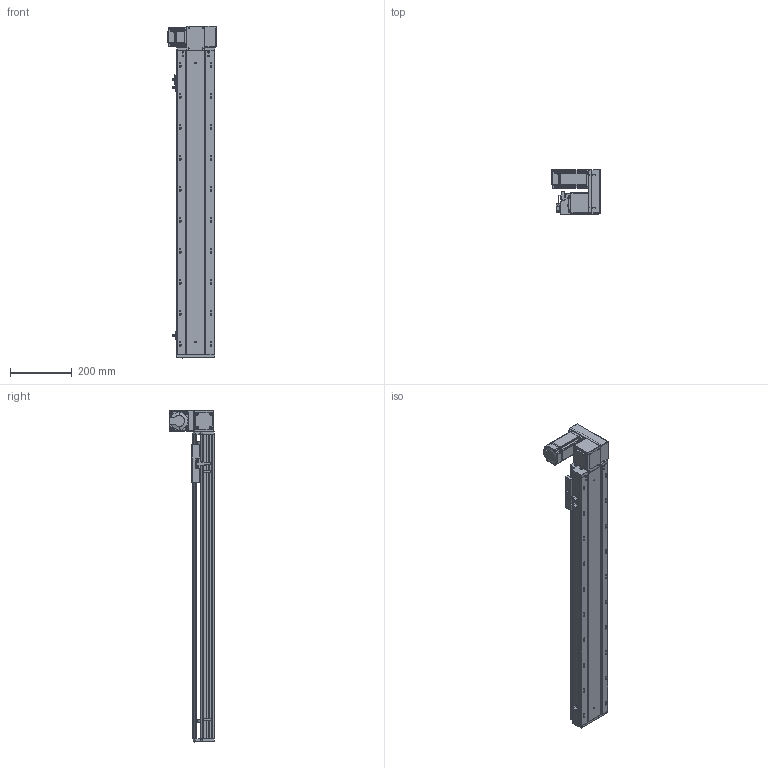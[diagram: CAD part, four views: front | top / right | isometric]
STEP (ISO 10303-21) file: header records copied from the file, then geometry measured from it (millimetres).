
FILE_DESCRIPTION (( 'STEP AP203' ), '1' );
FILE_NAME ('RY120-T-300-UR.SLDASM_750.step', '2021-03-01T05:56:13', ( '盈信电脑' ), ( '东莞市道滘镇水果街19号' ), 'SwSTEP 2.0', 'SolidWorks 2012', '' );
FILE_SCHEMA (( 'CONFIG_CONTROL_DESIGN' ));
Products named in the file (17): RY120-T主同步轮轴承压盖; RY120-T-300-UR.SLDASM_750; RY120-T萇儂欶; 15; RY120-T蹟翐M4; 滅袉蝶18-10; RY120-T翋肮祭謫裔啣; RY120-T萇儂假蚾啣; RY120-T肮祭湍揤踡輸2; RY120-T肮祭湍揤踡輸1; RY120外置感应片(140共用）; RY120-T翋肮祭盓傅釱; 覜茼ん672; RY120肮祭湍臏賑輸; RY120綴裔啣; RY120-T-300-UR倰第奻裔啣_750; RY120-T-300-UR倰第菁釱_750
Assembly tree (22 placements, depth 2):
  RY120-T-300-UR.SLDASM_750
    RY120-T-300-UR倰第菁釱_750
    RY120-T-300-UR倰第奻裔啣_750
    RY120肮祭湍臏賑輸
    RY120綴裔啣
    覜茼ん672  x3
    RY120外置感应片(140共用）
    RY120-T肮祭湍揤踡輸1
    RY120-T肮祭湍揤踡輸2
    RY120-T翋肮祭盓傅釱
    RY120-T萇儂假蚾啣
    滅袉蝶18-10  x2
    RY120-T翋肮祭謫裔啣
    15
    RY120-T蹟翐M4  x4
    RY120-T萇儂欶
    RY120-T主同步轮轴承压盖
Bounding box: 155.5 x 146 x 1071 mm (x, y, z)
Volume: 3063378.4 mm3; surface area: 1135201.7 mm2
Topology: 23 solids, 23 shells, 2910 faces, 7988 edges, 5142 vertices
Faces by surface type: plane 1446, cylinder 1136, cone 239, bspline 89
Entity records: 94175 total; most frequent: CARTESIAN_POINT 24784, ORIENTED_EDGE 14432, DIRECTION 13462, EDGE_CURVE 7216, VERTEX_POINT 4729, AXIS2_PLACEMENT_3D 4519, LINE 4424, VECTOR 4424
